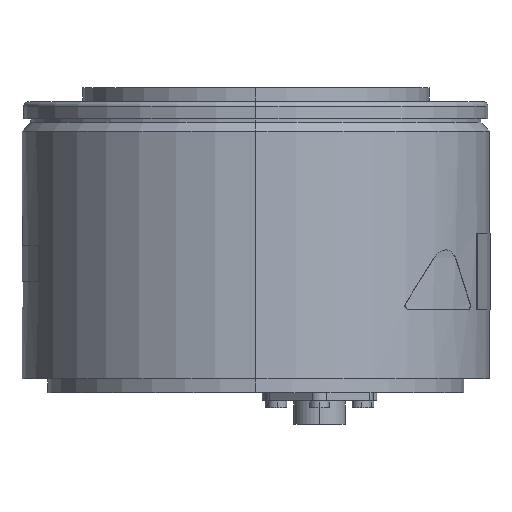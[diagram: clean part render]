
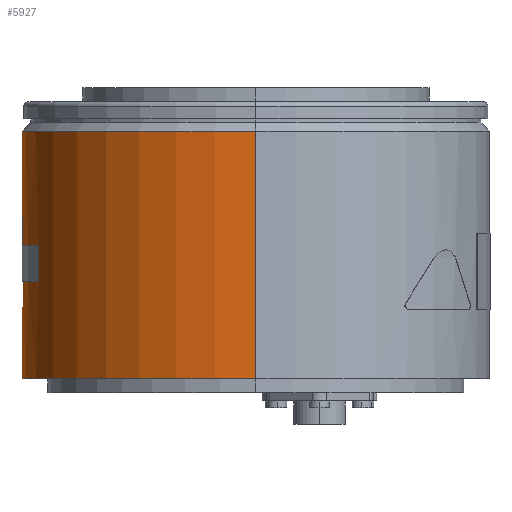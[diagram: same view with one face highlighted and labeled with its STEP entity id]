
A CAD part, left-side view. The second image highlights one B-rep face of the part: STEP entity #5927.
In plain terms, the highlighted cylindrical face has radius 67.5 mm (diameter 135 mm), a partial arc.
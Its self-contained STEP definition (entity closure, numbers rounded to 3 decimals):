
#15 = ORIENTED_EDGE ( 'NONE', *, *, #7619, .F. ) ;
#16 = ORIENTED_EDGE ( 'NONE', *, *, #7633, .F. ) ;
#17 = ORIENTED_EDGE ( 'NONE', *, *, #7597, .T. ) ;
#18 = ORIENTED_EDGE ( 'NONE', *, *, #7651, .T. ) ;
#19 = ORIENTED_EDGE ( 'NONE', *, *, #7630, .F. ) ;
#20 = ORIENTED_EDGE ( 'NONE', *, *, #7662, .F. ) ;
#21 = ORIENTED_EDGE ( 'NONE', *, *, #7614, .F. ) ;
#22 = ORIENTED_EDGE ( 'NONE', *, *, #7657, .F. ) ;
#1556 = CIRCLE ( 'NONE', #4514, 67.5 ) ;
#1560 = VECTOR ( 'NONE', #2939, 1000. ) ;
#1562 = LINE ( 'NONE', #2930, #1560 ) ;
#1582 = CIRCLE ( 'NONE', #4524, 67.5 ) ;
#1586 = CIRCLE ( 'NONE', #4527, 67.5 ) ;
#1612 = LINE ( 'NONE', #3029, #1621 ) ;
#1613 = CIRCLE ( 'NONE', #4535, 67.5 ) ;
#1618 = VECTOR ( 'NONE', #3048, 1000. ) ;
#1621 = VECTOR ( 'NONE', #3033, 1000. ) ;
#1622 = LINE ( 'NONE', #3047, #1618 ) ;
#2729 = CARTESIAN_POINT ( 'NONE',  ( -25., 62.7, 32. ) ) ;
#2730 = CARTESIAN_POINT ( 'NONE',  ( -25., 62.7, 42.5 ) ) ;
#2731 = CARTESIAN_POINT ( 'NONE',  ( 25., 62.7, 32. ) ) ;
#2732 = CARTESIAN_POINT ( 'NONE',  ( 25., 62.7, 42.5 ) ) ;
#2733 = CARTESIAN_POINT ( 'NONE',  ( -67.5, 0., 75.5 ) ) ;
#2734 = CARTESIAN_POINT ( 'NONE',  ( 67.5, 0., 75.5 ) ) ;
#2735 = CARTESIAN_POINT ( 'NONE',  ( 67.5, 0., 4. ) ) ;
#2736 = CARTESIAN_POINT ( 'NONE',  ( -67.5, 0., 4. ) ) ;
#2876 = CARTESIAN_POINT ( 'NONE',  ( 67.5, 0., 0. ) ) ;
#2885 = DIRECTION ( 'NONE',  ( 0., 0., -1. ) ) ;
#2919 = CARTESIAN_POINT ( 'NONE',  ( 0., 0., 32. ) ) ;
#2925 = DIRECTION ( 'NONE',  ( 0., 0., 1. ) ) ;
#2926 = DIRECTION ( 'NONE',  ( -1., 0., 0. ) ) ;
#2930 = CARTESIAN_POINT ( 'NONE',  ( -67.5, 0., 0. ) ) ;
#2939 = DIRECTION ( 'NONE',  ( 0., 0., -1. ) ) ;
#2966 = CARTESIAN_POINT ( 'NONE',  ( 0., 0., 42.5 ) ) ;
#2967 = DIRECTION ( 'NONE',  ( 0., 0., -1. ) ) ;
#2968 = DIRECTION ( 'NONE',  ( 1., 0., 0. ) ) ;
#2974 = CARTESIAN_POINT ( 'NONE',  ( 0., 0., 4. ) ) ;
#2975 = DIRECTION ( 'NONE',  ( 0., 0., -1. ) ) ;
#2976 = DIRECTION ( 'NONE',  ( -1., 0., 0. ) ) ;
#3012 = CARTESIAN_POINT ( 'NONE',  ( 0., 0., 75.5 ) ) ;
#3021 = DIRECTION ( 'NONE',  ( 0., 0., -1. ) ) ;
#3022 = DIRECTION ( 'NONE',  ( -1., 0., 0. ) ) ;
#3029 = CARTESIAN_POINT ( 'NONE',  ( -25., 62.7, 0. ) ) ;
#3033 = DIRECTION ( 'NONE',  ( 0., 0., 1. ) ) ;
#3047 = CARTESIAN_POINT ( 'NONE',  ( 25., 62.7, 0. ) ) ;
#3048 = DIRECTION ( 'NONE',  ( 0., 0., -1. ) ) ;
#3579 = VECTOR ( 'NONE', #2885, 1000. ) ;
#3581 = LINE ( 'NONE', #2876, #3579 ) ;
#4031 = DIRECTION ( 'NONE',  ( -1., 0., 0. ) ) ;
#4032 = DIRECTION ( 'NONE',  ( 0., 0., -1. ) ) ;
#4033 = CARTESIAN_POINT ( 'NONE',  ( 0., 0., 0. ) ) ;
#4390 = AXIS2_PLACEMENT_3D ( 'NONE', #4033, #4032, #4031 ) ;
#4514 = AXIS2_PLACEMENT_3D ( 'NONE', #2919, #2925, #2926 ) ;
#4524 = AXIS2_PLACEMENT_3D ( 'NONE', #2966, #2967, #2968 ) ;
#4527 = AXIS2_PLACEMENT_3D ( 'NONE', #2974, #2975, #2976 ) ;
#4535 = AXIS2_PLACEMENT_3D ( 'NONE', #3012, #3021, #3022 ) ;
#4974 = VERTEX_POINT ( 'NONE', #2729 ) ;
#4975 = VERTEX_POINT ( 'NONE', #2730 ) ;
#4976 = VERTEX_POINT ( 'NONE', #2731 ) ;
#4977 = VERTEX_POINT ( 'NONE', #2732 ) ;
#4978 = VERTEX_POINT ( 'NONE', #2733 ) ;
#4979 = VERTEX_POINT ( 'NONE', #2734 ) ;
#4980 = VERTEX_POINT ( 'NONE', #2735 ) ;
#4981 = VERTEX_POINT ( 'NONE', #2736 ) ;
#5927 = ADVANCED_FACE ( 'NONE', ( #9591, #9599 ), #9593, .T. ) ;
#7597 = EDGE_CURVE ( 'NONE', #4979, #4980, #3581, .T. ) ;
#7614 = EDGE_CURVE ( 'NONE', #4976, #4974, #1556, .T. ) ;
#7619 = EDGE_CURVE ( 'NONE', #4978, #4981, #1562, .T. ) ;
#7630 = EDGE_CURVE ( 'NONE', #4975, #4977, #1582, .T. ) ;
#7633 = EDGE_CURVE ( 'NONE', #4981, #4980, #1586, .T. ) ;
#7651 = EDGE_CURVE ( 'NONE', #4978, #4979, #1613, .T. ) ;
#7657 = EDGE_CURVE ( 'NONE', #4974, #4975, #1612, .T. ) ;
#7662 = EDGE_CURVE ( 'NONE', #4977, #4976, #1622, .T. ) ;
#9479 = EDGE_LOOP ( 'NONE', ( #18, #17, #16, #15 ) ) ;
#9482 = EDGE_LOOP ( 'NONE', ( #22, #21, #20, #19 ) ) ;
#9591 = FACE_BOUND ( 'NONE', #9482, .T. ) ;
#9593 = CYLINDRICAL_SURFACE ( 'NONE', #4390, 67.5 ) ;
#9599 = FACE_OUTER_BOUND ( 'NONE', #9479, .T. ) ;
